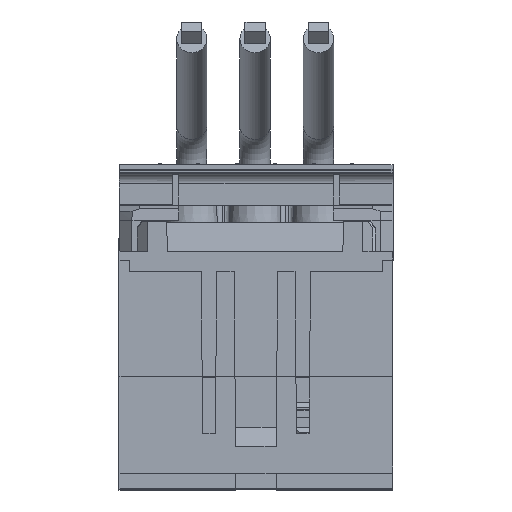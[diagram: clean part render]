
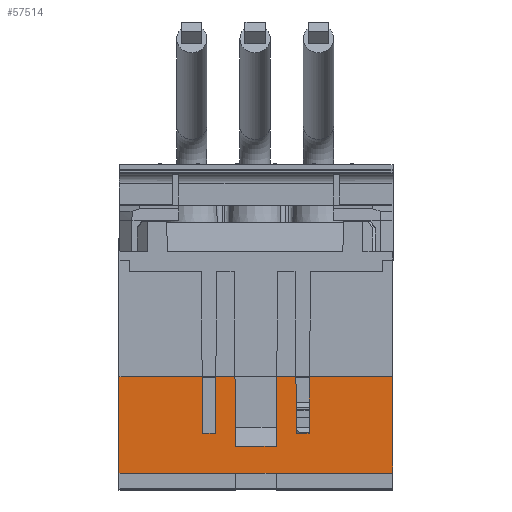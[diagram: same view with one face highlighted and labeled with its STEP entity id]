
A CAD part, top view. The second image highlights one B-rep face of the part: STEP entity #57514.
In plain terms, the highlighted planar face has unit normal (0, -0.009, 1).
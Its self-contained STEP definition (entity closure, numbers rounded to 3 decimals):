
#528 = CARTESIAN_POINT ( 'NONE',  ( -27., 18.5, 200.2 ) ) ;
#1342 = ORIENTED_EDGE ( 'NONE', *, *, #7757, .T. ) ;
#1565 = LINE ( 'NONE', #15010, #33174 ) ;
#1570 = DIRECTION ( 'NONE',  ( 0., -0.009, 1. ) ) ;
#2050 = DIRECTION ( 'NONE',  ( 1., 0., 0. ) ) ;
#2618 = VERTEX_POINT ( 'NONE', #60993 ) ;
#2974 = CARTESIAN_POINT ( 'NONE',  ( -26., -15.7, 199.902 ) ) ;
#3178 = VERTEX_POINT ( 'NONE', #67282 ) ;
#3241 = DIRECTION ( 'NONE',  ( -0.009, -1., -0.009 ) ) ;
#4701 = DIRECTION ( 'NONE',  ( -1., 0., 0. ) ) ;
#6964 = VERTEX_POINT ( 'NONE', #7850 ) ;
#7170 = LINE ( 'NONE', #53291, #66061 ) ;
#7172 = EDGE_CURVE ( 'NONE', #2618, #27976, #29823, .T. ) ;
#7224 = CARTESIAN_POINT ( 'NONE',  ( -26., 18.5, 200.2 ) ) ;
#7757 = EDGE_CURVE ( 'NONE', #37188, #3178, #27154, .T. ) ;
#7850 = CARTESIAN_POINT ( 'NONE',  ( 10.598, -4.5, 199.999 ) ) ;
#7852 = EDGE_CURVE ( 'NONE', #68967, #37776, #8752, .T. ) ;
#8752 = LINE ( 'NONE', #72485, #72070 ) ;
#11232 = CARTESIAN_POINT ( 'NONE',  ( -26., -4.5, 199.999 ) ) ;
#11466 = ORIENTED_EDGE ( 'NONE', *, *, #16812, .T. ) ;
#12407 = LINE ( 'NONE', #18249, #69565 ) ;
#12949 = CARTESIAN_POINT ( 'NONE',  ( 27., 18.5, 200.2 ) ) ;
#13119 = DIRECTION ( 'NONE',  ( -0.009, -1., -0.009 ) ) ;
#13589 = EDGE_CURVE ( 'NONE', #3178, #55950, #62553, .T. ) ;
#14165 = DIRECTION ( 'NONE',  ( -0.009, 1., 0.009 ) ) ;
#14178 = LINE ( 'NONE', #42720, #17663 ) ;
#14214 = ORIENTED_EDGE ( 'NONE', *, *, #42845, .T. ) ;
#14940 = VECTOR ( 'NONE', #56839, 1000. ) ;
#15010 = CARTESIAN_POINT ( 'NONE',  ( -26., -4.5, 199.999 ) ) ;
#15548 = VECTOR ( 'NONE', #14165, 1000. ) ;
#15977 = ORIENTED_EDGE ( 'NONE', *, *, #52867, .T. ) ;
#16812 = EDGE_CURVE ( 'NONE', #23815, #64505, #56677, .T. ) ;
#17663 = VECTOR ( 'NONE', #3241, 1000. ) ;
#17821 = VERTEX_POINT ( 'NONE', #33190 ) ;
#17909 = LINE ( 'NONE', #64827, #50460 ) ;
#18249 = CARTESIAN_POINT ( 'NONE',  ( -7.722, 16.2, 200.18 ) ) ;
#18566 = CARTESIAN_POINT ( 'NONE',  ( 10.5, -15.7, 199.902 ) ) ;
#18690 = DIRECTION ( 'NONE',  ( 0., -1., -0.009 ) ) ;
#18996 = ORIENTED_EDGE ( 'NONE', *, *, #49543, .T. ) ;
#19768 = CARTESIAN_POINT ( 'NONE',  ( -10.5, -15.7, 199.902 ) ) ;
#19970 = ORIENTED_EDGE ( 'NONE', *, *, #34226, .F. ) ;
#20513 = ORIENTED_EDGE ( 'NONE', *, *, #55193, .T. ) ;
#21111 = EDGE_CURVE ( 'NONE', #54065, #23980, #12407, .T. ) ;
#22473 = CARTESIAN_POINT ( 'NONE',  ( -4.122, -4.5, 199.999 ) ) ;
#23008 = VECTOR ( 'NONE', #58594, 1000. ) ;
#23483 = VECTOR ( 'NONE', #55733, 1000. ) ;
#23585 = PLANE ( 'NONE',  #58650 ) ;
#23623 = FACE_OUTER_BOUND ( 'NONE', #23896, .T. ) ;
#23815 = VERTEX_POINT ( 'NONE', #18566 ) ;
#23896 = EDGE_LOOP ( 'NONE', ( #47768, #1342, #48409, #18996, #15977, #43502, #48089, #47797, #11466, #50292, #26978, #20513, #33899, #46347, #19970, #42429, #14214, #24037 ) ) ;
#23980 = VERTEX_POINT ( 'NONE', #69200 ) ;
#24037 = ORIENTED_EDGE ( 'NONE', *, *, #60112, .T. ) ;
#24304 = CARTESIAN_POINT ( 'NONE',  ( -26., -23.5, 199.833 ) ) ;
#26719 = EDGE_CURVE ( 'NONE', #37188, #35595, #57657, .T. ) ;
#26978 = ORIENTED_EDGE ( 'NONE', *, *, #7172, .F. ) ;
#27154 = LINE ( 'NONE', #528, #64963 ) ;
#27976 = VERTEX_POINT ( 'NONE', #72245 ) ;
#28918 = EDGE_CURVE ( 'NONE', #6964, #23815, #17909, .T. ) ;
#29823 = LINE ( 'NONE', #11232, #14940 ) ;
#30342 = DIRECTION ( 'NONE',  ( 0., 1., 0.009 ) ) ;
#31160 = DIRECTION ( 'NONE',  ( -0.009, -1., -0.009 ) ) ;
#32204 = EDGE_CURVE ( 'NONE', #70038, #68328, #43053, .T. ) ;
#33174 = VECTOR ( 'NONE', #71519, 1000. ) ;
#33190 = CARTESIAN_POINT ( 'NONE',  ( 4., -23.5, 199.833 ) ) ;
#33899 = ORIENTED_EDGE ( 'NONE', *, *, #68542, .T. ) ;
#34226 = EDGE_CURVE ( 'NONE', #54065, #37776, #1565, .T. ) ;
#35335 = CARTESIAN_POINT ( 'NONE',  ( -10.598, -4.5, 199.999 ) ) ;
#35595 = VERTEX_POINT ( 'NONE', #35335 ) ;
#36393 = CARTESIAN_POINT ( 'NONE',  ( 27., -4.5, 199.999 ) ) ;
#36536 = CARTESIAN_POINT ( 'NONE',  ( -26., -4.5, 199.999 ) ) ;
#36734 = CARTESIAN_POINT ( 'NONE',  ( -7.902, -4.5, 199.999 ) ) ;
#36915 = VECTOR ( 'NONE', #30342, 1000. ) ;
#37033 = DIRECTION ( 'NONE',  ( 1., 0., 0. ) ) ;
#37188 = VERTEX_POINT ( 'NONE', #48943 ) ;
#37776 = VERTEX_POINT ( 'NONE', #22473 ) ;
#41029 = CARTESIAN_POINT ( 'NONE',  ( 4., -23.5, 199.833 ) ) ;
#41646 = EDGE_CURVE ( 'NONE', #6964, #68328, #63920, .T. ) ;
#41980 = DIRECTION ( 'NONE',  ( -0.009, 1., 0.009 ) ) ;
#42429 = ORIENTED_EDGE ( 'NONE', *, *, #21111, .T. ) ;
#42501 = CARTESIAN_POINT ( 'NONE',  ( 4.003, -18.18, 199.88 ) ) ;
#42706 = VERTEX_POINT ( 'NONE', #42501 ) ;
#42720 = CARTESIAN_POINT ( 'NONE',  ( 4.303, 16.2, 200.18 ) ) ;
#42740 = VECTOR ( 'NONE', #44871, 1000. ) ;
#42845 = EDGE_CURVE ( 'NONE', #23980, #62668, #47939, .T. ) ;
#43053 = LINE ( 'NONE', #12949, #36915 ) ;
#43502 = ORIENTED_EDGE ( 'NONE', *, *, #32204, .T. ) ;
#44871 = DIRECTION ( 'NONE',  ( 1., 0., 0. ) ) ;
#45182 = DIRECTION ( 'NONE',  ( -0.009, 1., 0.009 ) ) ;
#45405 = LINE ( 'NONE', #19768, #15548 ) ;
#46347 = ORIENTED_EDGE ( 'NONE', *, *, #7852, .T. ) ;
#47676 = LINE ( 'NONE', #58347, #23008 ) ;
#47768 = ORIENTED_EDGE ( 'NONE', *, *, #26719, .F. ) ;
#47797 = ORIENTED_EDGE ( 'NONE', *, *, #28918, .T. ) ;
#47939 = LINE ( 'NONE', #72001, #53232 ) ;
#48089 = ORIENTED_EDGE ( 'NONE', *, *, #41646, .F. ) ;
#48409 = ORIENTED_EDGE ( 'NONE', *, *, #13589, .T. ) ;
#48943 = CARTESIAN_POINT ( 'NONE',  ( -27., -4.5, 199.999 ) ) ;
#49177 = CARTESIAN_POINT ( 'NONE',  ( -26., -18.18, 199.88 ) ) ;
#49543 = EDGE_CURVE ( 'NONE', #55950, #17821, #47676, .T. ) ;
#50023 = VECTOR ( 'NONE', #2050, 1000. ) ;
#50292 = ORIENTED_EDGE ( 'NONE', *, *, #65444, .T. ) ;
#50460 = VECTOR ( 'NONE', #31160, 1000. ) ;
#52403 = CARTESIAN_POINT ( 'NONE',  ( -4., -23.5, 199.833 ) ) ;
#52867 = EDGE_CURVE ( 'NONE', #17821, #70038, #57868, .T. ) ;
#53041 = DIRECTION ( 'NONE',  ( -1., 0., 0. ) ) ;
#53232 = VECTOR ( 'NONE', #4701, 1000. ) ;
#53291 = CARTESIAN_POINT ( 'NONE',  ( 8., -15.7, 199.902 ) ) ;
#54065 = VERTEX_POINT ( 'NONE', #36734 ) ;
#55193 = EDGE_CURVE ( 'NONE', #2618, #42706, #14178, .T. ) ;
#55733 = DIRECTION ( 'NONE',  ( -1., 0., 0. ) ) ;
#55950 = VERTEX_POINT ( 'NONE', #52403 ) ;
#56212 = DIRECTION ( 'NONE',  ( 0., -1., -0.009 ) ) ;
#56677 = LINE ( 'NONE', #2974, #68119 ) ;
#56839 = DIRECTION ( 'NONE',  ( 1., 0., 0. ) ) ;
#57458 = DIRECTION ( 'NONE',  ( 1., 0., 0. ) ) ;
#57514 = ADVANCED_FACE ( 'NONE', ( #23623 ), #23585, .T. ) ;
#57657 = LINE ( 'NONE', #67211, #42740 ) ;
#57863 = CARTESIAN_POINT ( 'NONE',  ( 8., -15.7, 199.902 ) ) ;
#57868 = LINE ( 'NONE', #24304, #50023 ) ;
#58347 = CARTESIAN_POINT ( 'NONE',  ( -26., -23.5, 199.833 ) ) ;
#58594 = DIRECTION ( 'NONE',  ( 1., 0., 0. ) ) ;
#58650 = AXIS2_PLACEMENT_3D ( 'NONE', #7224, #1570, #18690 ) ;
#59485 = CARTESIAN_POINT ( 'NONE',  ( 27., -23.5, 199.833 ) ) ;
#60112 = EDGE_CURVE ( 'NONE', #62668, #35595, #45405, .T. ) ;
#60993 = CARTESIAN_POINT ( 'NONE',  ( 4.122, -4.5, 199.999 ) ) ;
#61329 = LINE ( 'NONE', #49177, #23483 ) ;
#62553 = LINE ( 'NONE', #41029, #68717 ) ;
#62668 = VERTEX_POINT ( 'NONE', #63390 ) ;
#63390 = CARTESIAN_POINT ( 'NONE',  ( -10.5, -15.7, 199.902 ) ) ;
#63920 = LINE ( 'NONE', #36536, #71014 ) ;
#64505 = VERTEX_POINT ( 'NONE', #57863 ) ;
#64827 = CARTESIAN_POINT ( 'NONE',  ( 10.778, 16.2, 200.18 ) ) ;
#64963 = VECTOR ( 'NONE', #56212, 1000. ) ;
#65444 = EDGE_CURVE ( 'NONE', #64505, #27976, #7170, .T. ) ;
#66061 = VECTOR ( 'NONE', #41980, 1000. ) ;
#67211 = CARTESIAN_POINT ( 'NONE',  ( -26., -4.5, 199.999 ) ) ;
#67282 = CARTESIAN_POINT ( 'NONE',  ( -27., -23.5, 199.833 ) ) ;
#68119 = VECTOR ( 'NONE', #53041, 1000. ) ;
#68328 = VERTEX_POINT ( 'NONE', #36393 ) ;
#68542 = EDGE_CURVE ( 'NONE', #42706, #68967, #61329, .T. ) ;
#68717 = VECTOR ( 'NONE', #57458, 1000. ) ;
#68967 = VERTEX_POINT ( 'NONE', #71694 ) ;
#69200 = CARTESIAN_POINT ( 'NONE',  ( -8., -15.7, 199.902 ) ) ;
#69565 = VECTOR ( 'NONE', #13119, 1000. ) ;
#70038 = VERTEX_POINT ( 'NONE', #59485 ) ;
#71014 = VECTOR ( 'NONE', #37033, 1000. ) ;
#71519 = DIRECTION ( 'NONE',  ( 1., 0., 0. ) ) ;
#71694 = CARTESIAN_POINT ( 'NONE',  ( -4.003, -18.18, 199.88 ) ) ;
#72001 = CARTESIAN_POINT ( 'NONE',  ( -26., -15.7, 199.902 ) ) ;
#72070 = VECTOR ( 'NONE', #45182, 1000. ) ;
#72245 = CARTESIAN_POINT ( 'NONE',  ( 7.902, -4.5, 199.999 ) ) ;
#72485 = CARTESIAN_POINT ( 'NONE',  ( -4.003, -18.18, 199.88 ) ) ;
